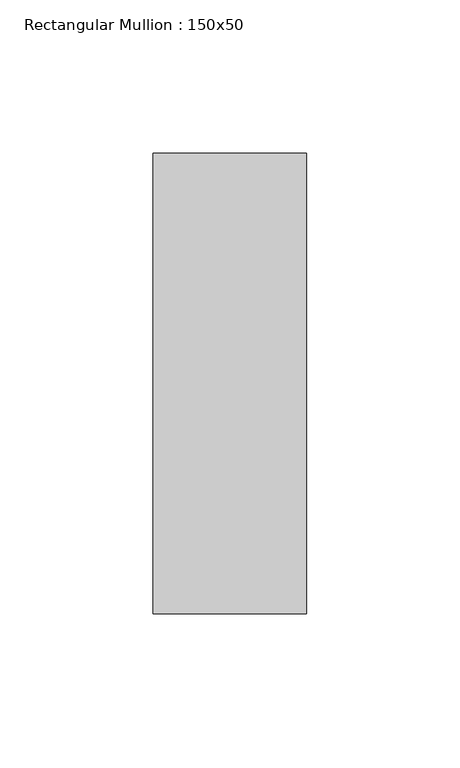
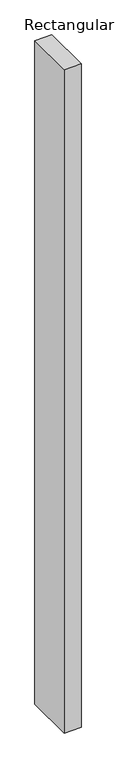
"""IFC4 building model written with IfcOpenShell, lengths in millimetres: member geometry, Rectangular Mullion : 150x50."""

from ifc_helpers import new_model, si_unit, frame, origin, place, context, project, spatial, polyline, outline, extrude, source, transform, mapped, element, save


def rectangular_mullion_150x50_2c0a6f8f(model_context):
    return source(origin(), model_context, "Body", "SweptSolid", [
        extrude(outline(polyline([(25.0, 75.0), (25.0, -75.0), (-25.0, -75.0), (-25.0, 75.0), (25.0, 75.0)])), frame((0.0, 0.0, -2075.0), z_axis=(0.0, 0.0, 1.0), x_axis=(1.0, 0.0, 0.0)), (0.0, 0.0, 1.0), 2075.0),
    ])


if __name__ == "__main__":
    model = new_model("IFC4")
    model_context = context("Model", 3, world=origin())
    ifc_project = project(units=[si_unit("LENGTHUNIT", "METRE", prefix="MILLI")], contexts=[model_context])
    site = spatial("IfcSite", under=ifc_project)
    building = spatial("IfcBuilding", under=site)
    placement = place(None, origin())
    rectangular_mullion_150x50_shape = rectangular_mullion_150x50_2c0a6f8f(model_context)
    element("IfcMember", 1, ObjectType="Rectangular Mullion : 150x50", at=placement, inside=building, context=model_context, shape_type="MappedRepresentation", body=[
        mapped(rectangular_mullion_150x50_shape, transform((0.0, 0.0, 0.0), x_axis=(1.0, 0.0, 0.0), y_axis=(0.0, 1.0, 0.0), z_axis=(0.0, 0.0, 1.0))),
    ])
    save(model, "model.ifc")
